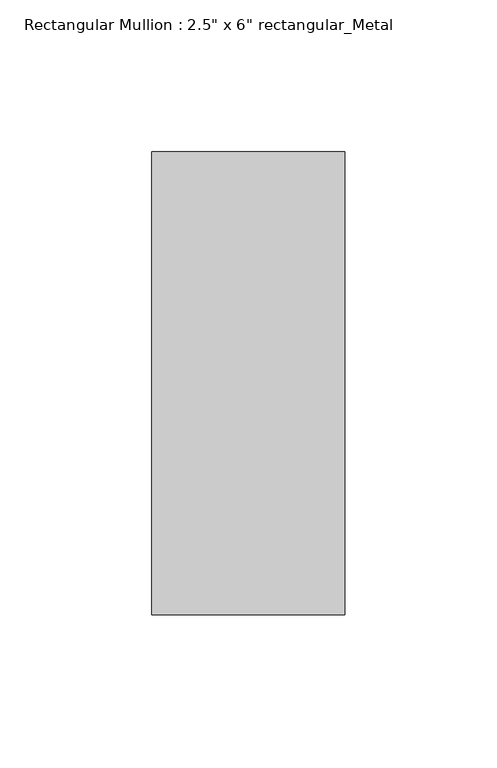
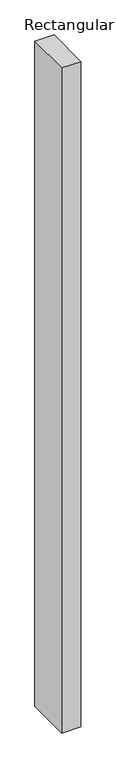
"""IFC4 building model written with IfcOpenShell, lengths in millimetres: member geometry."""

from ifc_helpers import new_model, si_unit, frame, origin, place, context, project, spatial, polyline, outline, extrude, source, transform, mapped, element, save


def member_bf89f4a2(model_context):
    return source(origin(), model_context, "Body", "SweptSolid", [
        extrude(outline(polyline([(0.0, 76.2), (0.0, -76.2), (-63.5, -76.2), (-63.5, 76.2), (0.0, 76.2)])), frame((0.0, 0.0, -2311.4), z_axis=(0.0, 0.0, 1.0), x_axis=(1.0, 0.0, 0.0)), (0.0, 0.0, 1.0), 2311.4),
    ])


if __name__ == "__main__":
    model = new_model("IFC4")
    model_context = context("Model", 3, world=origin())
    ifc_project = project(units=[si_unit("LENGTHUNIT", "METRE", prefix="MILLI")], contexts=[model_context])
    site = spatial("IfcSite", under=ifc_project)
    building = spatial("IfcBuilding", under=site)
    placement = place(None, origin())
    member_shape = member_bf89f4a2(model_context)
    element("IfcMember", 1, ObjectType="Rectangular Mullion : 2.5\" x 6\" rectangular_Metal", at=placement, inside=building, context=model_context, shape_type="MappedRepresentation", body=[
        mapped(member_shape, transform((0.0, 0.0, 0.0), x_axis=(1.0, 0.0, 0.0), y_axis=(0.0, 1.0, 0.0), z_axis=(0.0, 0.0, 1.0))),
    ])
    save(model, "model.ifc")
